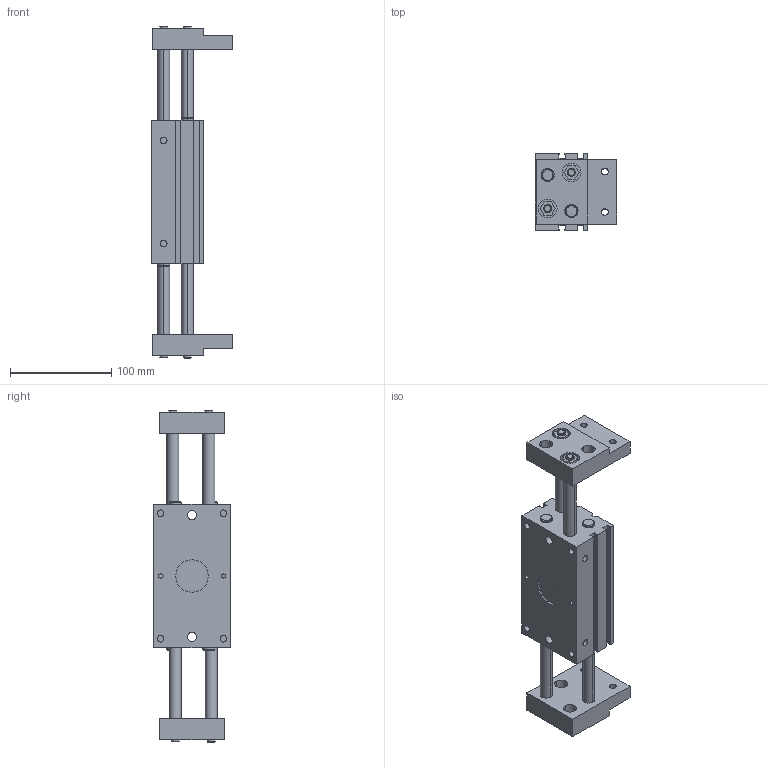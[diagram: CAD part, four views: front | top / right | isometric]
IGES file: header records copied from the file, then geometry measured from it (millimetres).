
Global section: file name: No Iges File Name specified; native system: AutoDesk Inventor R11.0; preprocessor: AutoDesk Inventor Iges Exporter R11.0; author: No Author specified; organization: No Organization specified; date: 20070224.105602; units: millimetre
Bounding box: 81 x 76 x 328 mm (x, y, z)
Volume: 732821.8 mm3; surface area: 148752.3 mm2
Topology: 3 solids, 3 shells, 203 faces, 494 edges, 324 vertices
Faces by surface type: plane 101, bspline 56, cylinder 16, cone 16, revolution 14
